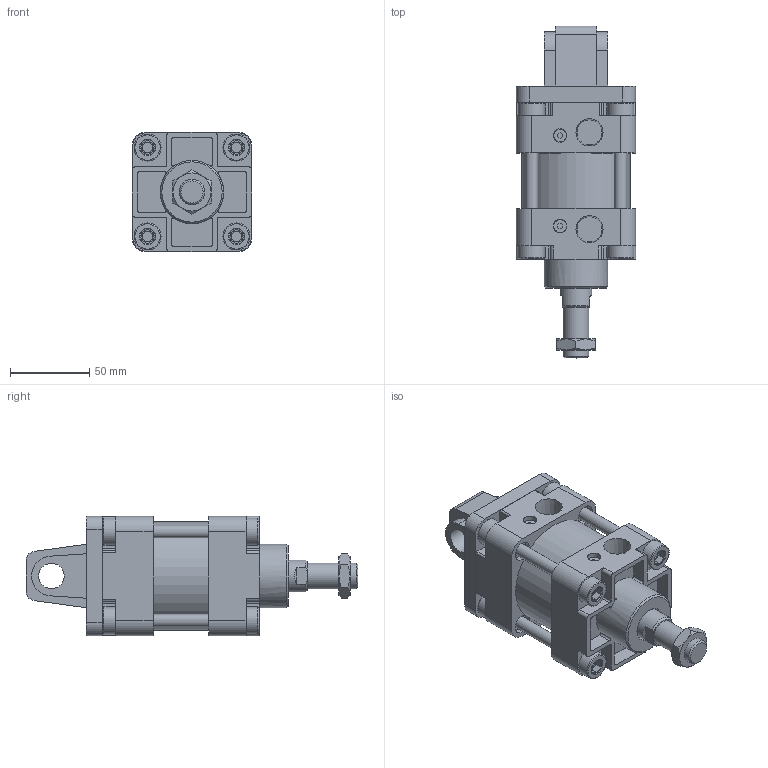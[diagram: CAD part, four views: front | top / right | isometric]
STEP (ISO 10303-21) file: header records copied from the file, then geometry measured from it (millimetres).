
FILE_DESCRIPTION(/* description */ ('Unknown'),/* implementation_level */ '2;1');
FILE_NAME(/* name */ 'WA63-0-CA',/* time_stamp */ '2026-07-17T16:53:44+08:00',/* author */ ('Unknown'),/* organization */ ('Unknown'),/* preprocessor_version */ 'ST-DEVELOPER v16.7',/* originating_system */ 'DEX',/* authorisation */ $);
FILE_SCHEMA (('CONFIG_CONTROL_DESIGN'));
Length unit declared in the file: millimetre
Products named in the file (8): WA63-0-CA; WA63_後; WA63_¤ß¶b¬¡æ´»å¡žçµ„; WA63_鋁; WA63_前; M16-1.5P-8_螺; WA63_T帽牙; WA63_CA
Assembly tree (10 placements, depth 2):
  WA63-0-CA
    WA63_後
    WA63_¤ß¶b¬¡æ´»å¡žçµ„
    WA63_鋁
    WA63_前
    M16-1.5P-8_螺
    WA63_T帽牙  x4
    WA63_CA
Bounding box: 75 x 209 x 75 mm (x, y, z)
Volume: 549819.2 mm3; surface area: 136445 mm2
Topology: 10 solids, 10 shells, 400 faces, 985 edges, 667 vertices
Faces by surface type: plane 226, cylinder 137, cone 29, torus 8
Full cylindrical faces by diameter (mm): 6.8 x8, 8 x6, 8.5 x2, 9 x4, 12 x8, 12.5 x8, 14 x4, 14.5 x1, 15.806 x2, 16 x2, 17 x8, 20 x2, 40 x1, 62.5 x1, 63 x3, 68 x1
Entity records: 10623 total; most frequent: CARTESIAN_POINT 1610, DIRECTION 1534, ORIENTED_EDGE 1378, EDGE_CURVE 689, AXIS2_PLACEMENT_3D 575, VERTEX_POINT 491, EDGE_LOOP 410, FACE_BOUND 410
